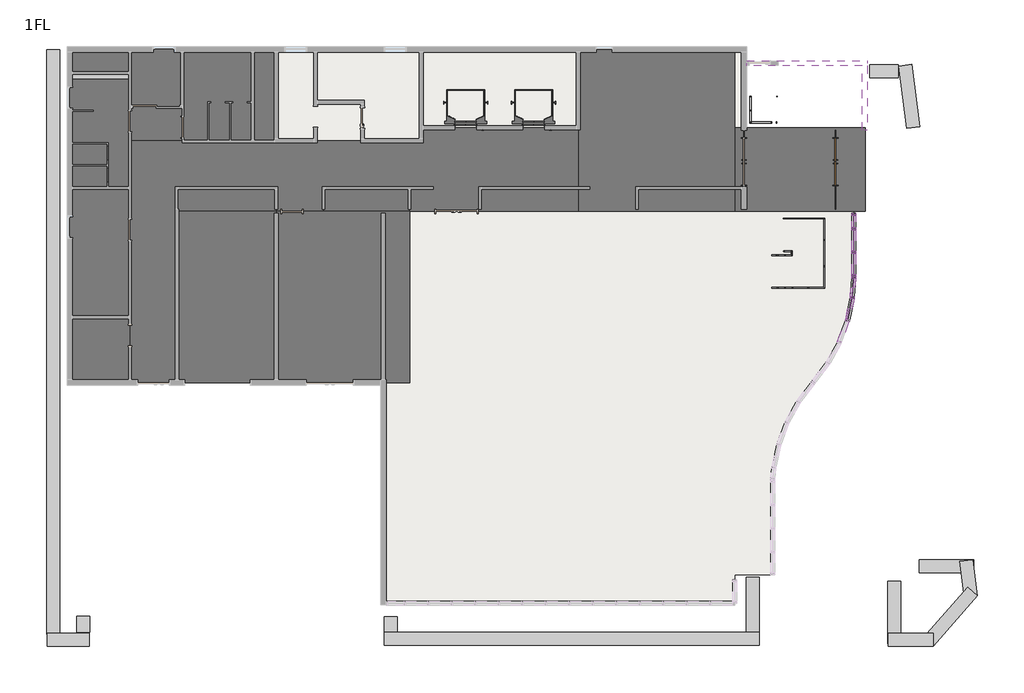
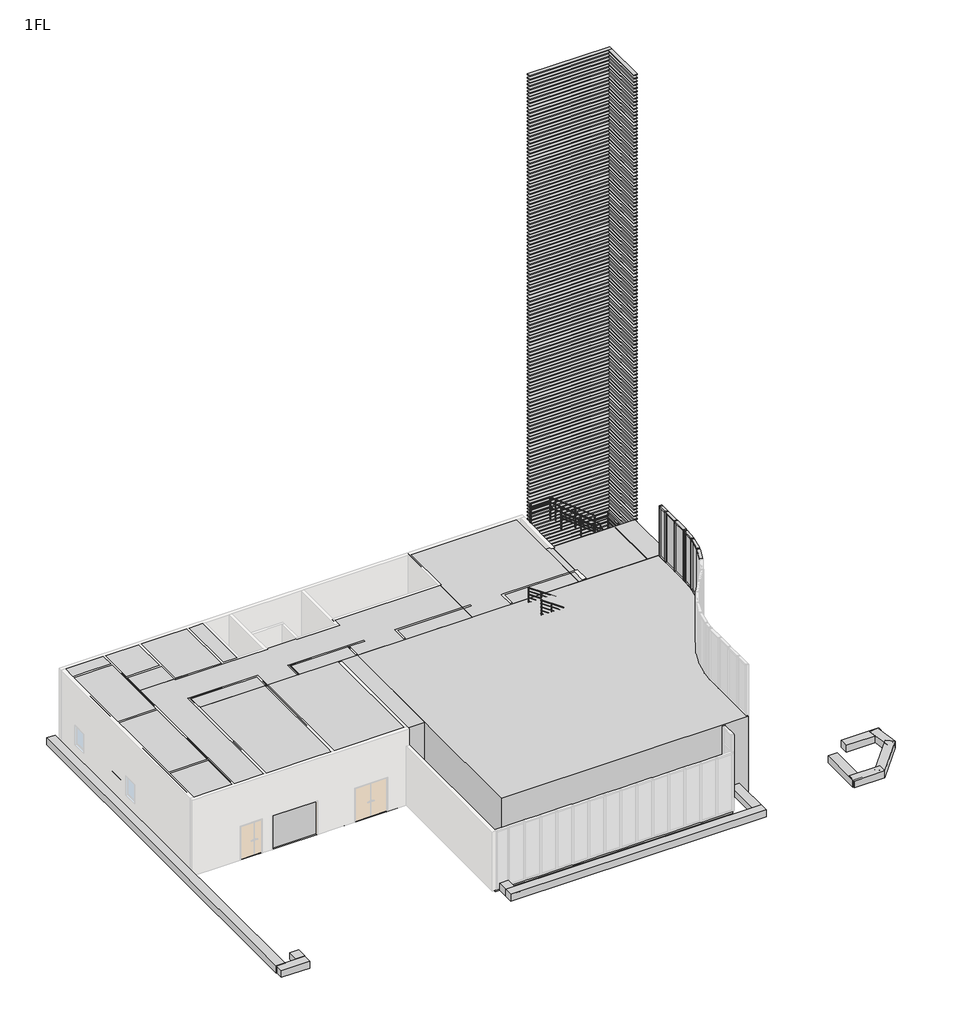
# One storey, part 4 of 4: 42 members, 20 proxies, 16 plates, 13 geographic elements, 4 flow terminals, 4 railings, 1 door, 1 slab.
"""IFC4 building model written with IfcOpenShell, lengths in millimetres."""

from ifc_helpers import new_model, si_unit, point, frame, frame_2d, origin, place, context, project, spatial, polyline, circle_curve, trimmed, segment, composite_curve, outline, extrude, transform, mapped, element, save
from components import specialty_equipment_d755c605, generic_models_8edc52f3, generic_models_84017759, d150_h1200_d4f8d7fc, w550_h2000_5054dc5e, w1800h2000_ad426c29, flow_terminal_205c4ddb, flow_terminal_b8fa7ae2, geographic_element_e046077a, geographic_element_ca9d48e7, geographic_element_d164ea4d, geographic_element_0d73bef9, geographic_element_c6e1ca96, geographic_element_46d341d1, geographic_element_428e2698, geographic_element_438879f5, geographic_element_253e0ccf, geographic_element_3813c259, geographic_element_54a3db66, geographic_element_fa39f05c, member_70x150_cdd4dcf9, member_70x150_66cf63de, member_70x150_ad4265bc, member_70x150_1b280ac3, member_70x150_f8cbd96f, member_70x150_a7debf2b, member_70x150_dd29d753, member_70x150_4e68411c, member_70x150_de2330a6, member_70x150_9ac4fcb9, member_70x150_482b1498, member_70x150_57855d24, member_70x150_27cdc2a3, plate_28587fd3, plate_88a24ec0, plate_582e668a, plate_c8db20b3, plate_8ab51c12, plate_ab2b1a6a, plate_19a950bd, railing_1d44057c, railing_328e5c47, railing_1eb0047a, railing_baf35b28

model = new_model("IFC4")

# Units and contexts
model_context = context("Model", 3, world=origin())
ifc_project = project(units=[si_unit("LENGTHUNIT", "METRE", prefix="MILLI")], contexts=[model_context])

# Site, building, storey
site = spatial("IfcSite", under=ifc_project)
building = spatial("IfcBuilding", under=site)
storey = spatial("IfcBuildingStorey", under=building, Name="1FL", Elevation=100.0)

# Proxies
placement = place(None, origin())
element("IfcBuildingElementProxy", 1, Name="i_店舗1 : i_店舗1", ObjectType="i_店舗1 : i_店舗1", at=placement, inside=storey, context=model_context, shape_type="SweptSolid", body=[
    extrude(outline(composite_curve([segment(polyline([(1154.0215975, 10449.6868987), (1154.0215975, 7949.6868987)]), True, "CONTINUOUS"), segment(trimmed(circle_curve(frame_2d((-4969.3732678, 7971.6034521)), 6123.4340865), [point((1154.0215975, 7949.6868987))], [point((-395.9784025, 3899.6868987))], False, "CARTESIAN"), True, "CONTINUOUS"), segment(trimmed(circle_curve(frame_2d((4214.6177511, -205.3517764)), 6173.2438325), [point((-395.9784025, 3899.6868987))], [point((-1945.9784025, 189.6095485))], True, "CARTESIAN"), True, "CONTINUOUS"), segment(polyline([(-1945.9784025, 189.6095485), (-1945.9784025, -3550.3131013), (-15845.9784025, -3550.3131013), (-15845.9784025, 10449.6868987), (1154.0215975, 10449.6868987)]), True, "CONTINUOUS")], self_intersect=False)), frame((0.0, 0.0, 100.0), z_axis=(0.0, 0.0, 1.0), x_axis=(1.0, 0.0, 0.0)), (0.0, 0.0, 1.0), 4500.0),
])
element("IfcBuildingElementProxy", 2, Name="i_共用 : i_共用", ObjectType="i_共用 : i_共用", at=placement, inside=storey, context=model_context, shape_type="SweptSolid", body=[
    extrude(outline(polyline([(-3395.9784025, 16649.6868987), (-3395.9784025, 10449.6868987), (-9395.9784025, 10449.6868987), (-9395.9784025, 16649.6868987), (-3395.9784025, 16649.6868987)])), frame((0.0, 0.0, 100.0), z_axis=(0.0, 0.0, 1.0), x_axis=(1.0, 0.0, 0.0)), (0.0, 0.0, 1.0), 4500.0),
])
element("IfcBuildingElementProxy", 3, Name="i_共用1 : i_共用", ObjectType="i_共用1 : i_共用", at=placement, inside=storey, context=model_context, shape_type="SweptSolid", body=[
    extrude(outline(polyline([(1604.0215975, 13649.6868987), (1604.0215975, 10449.6868987), (-3395.9784025, 10449.6868987), (-3395.9784025, 13649.6868987), (1604.0215975, 13649.6868987)])), frame((0.0, 0.0, 100.0), z_axis=(0.0, 0.0, 1.0), x_axis=(1.0, 0.0, 0.0)), (0.0, 0.0, 1.0), 4500.0),
])
element("IfcBuildingElementProxy", 4, Name="i_共用2 : i_共用", ObjectType="i_共用2 : i_共用", at=placement, inside=storey, context=model_context, shape_type="SweptSolid", body=[
    extrude(outline(polyline([(-15845.9784025, 10449.6868987), (-15845.9784025, 3899.6868987), (-20945.9784025, 3899.6868987), (-20945.9784025, 10449.6868987), (-15845.9784025, 10449.6868987)])), frame((0.0, 0.0, 100.0), z_axis=(0.0, 0.0, 1.0), x_axis=(1.0, 0.0, 0.0)), (0.0, 0.0, 1.0), 4500.0),
])
element("IfcBuildingElementProxy", 5, Name="i_共用3 : i_共用", ObjectType="i_共用3 : i_共用", at=placement, inside=storey, context=model_context, shape_type="SweptSolid", body=[
    extrude(outline(polyline([(-20945.9784025, 10449.6868987), (-20945.9784025, 3899.6868987), (-24745.9784025, 3899.6868987), (-24745.9784025, 10449.6868987), (-20945.9784025, 10449.6868987)])), frame((0.0, 0.0, 100.0), z_axis=(0.0, 0.0, 1.0), x_axis=(1.0, 0.0, 0.0)), (0.0, 0.0, 1.0), 4500.0),
])
element("IfcBuildingElementProxy", 6, Name="i_共用5 : i_共用", ObjectType="i_共用5 : i_共用", at=placement, inside=storey, context=model_context, shape_type="SweptSolid", body=[
    extrude(outline(polyline([(-26545.9784025, 6399.6868987), (-26545.9784025, 3899.6868987), (-28845.9784025, 3899.6868987), (-28845.9784025, 6399.6868987), (-26545.9784025, 6399.6868987)])), frame((0.0, 0.0, 100.0), z_axis=(0.0, 0.0, 1.0), x_axis=(1.0, 0.0, 0.0)), (0.0, 0.0, 1.0), 4500.0),
])
element("IfcBuildingElementProxy", 7, Name="i_共用6 : i_共用", ObjectType="i_共用6 : i_共用", at=placement, inside=storey, context=model_context, shape_type="SweptSolid", body=[
    extrude(outline(polyline([(-26545.9784025, 11349.6868987), (-26545.9784025, 6399.6868987), (-28845.9784025, 6399.6868987), (-28845.9784025, 11349.6868987), (-26545.9784025, 11349.6868987)])), frame((0.0, 0.0, 100.0), z_axis=(0.0, 0.0, 1.0), x_axis=(1.0, 0.0, 0.0)), (0.0, 0.0, 1.0), 4500.0),
])
element("IfcBuildingElementProxy", 8, Name="i_共用4 : i_共用", ObjectType="i_共用4 : i_共用", at=placement, inside=storey, context=model_context, shape_type="SweptSolid", body=[
    extrude(outline(polyline([(-20945.9784025, 11349.6868987), (-20945.9784025, 10449.6868987), (-24745.9784025, 10449.6868987), (-24745.9784025, 11349.6868987), (-20945.9784025, 11349.6868987)])), frame((0.0, 0.0, 100.0), z_axis=(0.0, 0.0, 1.0), x_axis=(1.0, 0.0, 0.0)), (0.0, 0.0, 1.0), 4500.0),
])
element("IfcBuildingElementProxy", 9, Name="i_共用7 : i_共用", ObjectType="i_共用7 : i_共用", at=placement, inside=storey, context=model_context, shape_type="SweptSolid", body=[
    extrude(outline(polyline([(-15845.9784025, 11349.6868987), (-15845.9784025, 10449.6868987), (-19145.9784025, 10449.6868987), (-19145.9784025, 11349.6868987), (-15845.9784025, 11349.6868987)])), frame((0.0, 0.0, 100.0), z_axis=(0.0, 0.0, 1.0), x_axis=(1.0, 0.0, 0.0)), (0.0, 0.0, 1.0), 4500.0),
])
element("IfcBuildingElementProxy", 10, Name="i_便所2 : i_便所2", ObjectType="i_便所2 : i_便所2", at=placement, inside=storey, context=model_context, shape_type="SweptSolid", body=[
    extrude(outline(polyline([(-20945.9784025, 13149.6868987), (-26545.9784025, 13149.6868987), (-26545.9784025, 16649.6868987), (-20945.9784025, 16649.6868987), (-20945.9784025, 13149.6868987)])), frame((0.0, 0.0, 100.0), z_axis=(0.0, 0.0, 1.0), x_axis=(1.0, 0.0, 0.0)), (0.0, 0.0, 1.0), 4500.0),
])
element("IfcBuildingElementProxy", 11, Name="i_共用8 : i_共用8", ObjectType="i_共用8 : i_共用8", at=placement, inside=storey, context=model_context, shape_type="SweptSolid", body=[
    extrude(outline(polyline([(-26545.9784025, 3899.6868987), (-26545.9784025, 13149.6868987), (-15395.9784025, 13149.6868987), (-15395.9784025, 13649.6868987), (-9395.9784025, 13649.6868987), (-9395.9784025, 10449.6868987), (-15845.9784025, 10449.6868987), (-15845.9784025, 11349.6868987), (-19145.9784025, 11349.6868987), (-19145.9784025, 10449.6868987), (-20945.9784025, 10449.6868987), (-20945.9784025, 11349.6868987), (-24745.9784025, 11349.6868987), (-24745.9784025, 3899.6868987), (-26545.9784025, 3899.6868987)])), frame((0.0, 0.0, 100.0), z_axis=(0.0, 0.0, 1.0), x_axis=(1.0, 0.0, 0.0)), (0.0, 0.0, 1.0), 4500.0),
])
element("IfcBuildingElementProxy", 12, Name="i_便所3 : i_便所2", ObjectType="i_便所3 : i_便所2", at=placement, inside=storey, context=model_context, shape_type="SweptSolid", body=[
    extrude(outline(polyline([(-26545.9784025, 11349.6868987), (-28845.9784025, 11349.6868987), (-28845.9784025, 16649.6868987), (-26545.9784025, 16649.6868987), (-26545.9784025, 11349.6868987)])), frame((0.0, 0.0, 100.0), z_axis=(0.0, 0.0, 1.0), x_axis=(1.0, 0.0, 0.0)), (0.0, 0.0, 1.0), 4500.0),
])
specialty_equipment_shape = specialty_equipment_d755c605(model_context)
element("IfcBuildingElementProxy", 13, Name="エレベーター : 9人乗", ObjectType="エレベーター : 9人乗", at=placement, inside=storey, context=model_context, shape_type="MappedRepresentation", body=[
    mapped(specialty_equipment_shape, transform((-11220.9784025, 13649.6868987, 100.0), x_axis=(1.0, 0.0, 0.0), y_axis=(0.0, 1.0, 0.0), z_axis=(0.0, 0.0, 1.0))),
])
element("IfcBuildingElementProxy", 14, Name="エレベーター : 9人乗", ObjectType="エレベーター : 9人乗", at=placement, inside=storey, context=model_context, shape_type="MappedRepresentation", body=[
    mapped(specialty_equipment_shape, transform((-13820.9784025, 13649.6868987, 100.0), x_axis=(1.0, 0.0, 0.0), y_axis=(0.0, 1.0, 0.0), z_axis=(0.0, 0.0, 1.0))),
])
generic_models_shape = generic_models_8edc52f3(model_context)
generic_models_2_shape = generic_models_84017759(model_context)
element("IfcBuildingElementProxy", 15, Name="水平ルーバー（Ｌ型） : ｈ50ｄ200＠200", ObjectType="水平ルーバー（Ｌ型） : ｈ50ｄ200＠200", at=placement, inside=storey, context=model_context, shape_type="MappedRepresentation", body=[
    mapped(generic_models_shape, transform((1679.0215975, 15924.6868987, 2100.0), x_axis=(0.0, -1.0, 0.0), y_axis=(1.0, 0.0, 0.0), z_axis=(0.0, 0.0, 1.0))),
    mapped(generic_models_2_shape, transform((1679.0215975, 15924.6868987, 2100.0), x_axis=(0.0, -1.0, 0.0), y_axis=(1.0, 0.0, 0.0), z_axis=(0.0, 0.0, 1.0))),
])
d150_h1200_shape = d150_h1200_d4f8d7fc(model_context)
element("IfcBuildingElementProxy", 16, Name="r ライニング : D150 H1200", ObjectType="r ライニング : D150 H1200", at=placement, inside=storey, context=model_context, shape_type="MappedRepresentation", body=[
    mapped(d150_h1200_shape, transform((-28747.60536, 15678.9761644, 100.0), x_axis=(1.0, 0.0, 0.0), y_axis=(0.0, 1.0, 0.0), z_axis=(0.0, 0.0, 1.0))),
])
w550_h2000_shape = w550_h2000_5054dc5e(model_context)
element("IfcBuildingElementProxy", 17, Name="r トイレブース扉 : W550 H2000", ObjectType="r トイレブース扉 : W550 H2000", at=placement, inside=storey, context=model_context, shape_type="MappedRepresentation", body=[
    mapped(w550_h2000_shape, transform((-22215.9784025, 14624.6868987, 100.0), x_axis=(-1.0, 0.0, 0.0), y_axis=(0.0, -1.0, 0.0), z_axis=(0.0, 0.0, 1.0))),
])
element("IfcBuildingElementProxy", 18, Name="r トイレブース扉 : W550 H2000", ObjectType="r トイレブース扉 : W550 H2000", at=placement, inside=storey, context=model_context, shape_type="MappedRepresentation", body=[
    mapped(w550_h2000_shape, transform((-23055.9784025, 14624.6868987, 100.0), x_axis=(-1.0, 0.0, 0.0), y_axis=(0.0, -1.0, 0.0), z_axis=(0.0, 0.0, 1.0))),
])
element("IfcBuildingElementProxy", 19, Name="r トイレブース扉 : W550 H2000", ObjectType="r トイレブース扉 : W550 H2000", at=placement, inside=storey, context=model_context, shape_type="MappedRepresentation", body=[
    mapped(w550_h2000_shape, transform((-27395.9784025, 11719.6868987, 100.0), x_axis=(0.0, 1.0, 0.0), y_axis=(-1.0, 0.0, 0.0), z_axis=(0.0, 0.0, 1.0))),
])
element("IfcBuildingElementProxy", 20, Name="r トイレブース扉 : W550 H2000", ObjectType="r トイレブース扉 : W550 H2000", at=placement, inside=storey, context=model_context, shape_type="MappedRepresentation", body=[
    mapped(w550_h2000_shape, transform((-27395.9784025, 12559.6868987, 100.0), x_axis=(0.0, 1.0, 0.0), y_axis=(-1.0, 0.0, 0.0), z_axis=(0.0, 0.0, 1.0))),
])

# Door
w1800h2000_shape = w1800h2000_ad426c29(model_context)
element("IfcDoor", 21, ObjectType="自由扉 : w1800h2000", at=placement, inside=storey, context=model_context, shape_type="MappedRepresentation", body=[
    mapped(w1800h2000_shape, transform((454.0215975, 12349.6868987, 100.0), x_axis=(0.0, -1.0, 0.0), y_axis=(1.0, 0.0, 0.0), z_axis=(0.0, 0.0, 1.0))),
])

# Flow terminals
flow_terminal_shape = flow_terminal_205c4ddb(model_context)
element("IfcFlowTerminal", 22, ObjectType="洋式便器 - ライニング付 - 2D : タイプ 1", at=placement, inside=storey, context=model_context, shape_type="MappedRepresentation", body=[
    mapped(flow_terminal_shape, transform((-22420.9784025, 13124.6868987, 100.0), x_axis=(1.0, 0.0, 0.0), y_axis=(0.0, 1.0, 0.0), z_axis=(0.0, 0.0, 1.0))),
])
element("IfcFlowTerminal", 23, ObjectType="洋式便器 - ライニング付 - 2D : タイプ 1", at=placement, inside=storey, context=model_context, shape_type="MappedRepresentation", body=[
    mapped(flow_terminal_shape, transform((-23260.9784025, 13124.6868987, 100.0), x_axis=(1.0, 0.0, 0.0), y_axis=(0.0, 1.0, 0.0), z_axis=(0.0, 0.0, 1.0))),
])
flow_terminal_2_shape = flow_terminal_b8fa7ae2(model_context)
element("IfcFlowTerminal", 24, ObjectType="洋式便器 - ライニング付 - 2D : タイプ 1", at=placement, inside=storey, context=model_context, shape_type="MappedRepresentation", body=[
    mapped(flow_terminal_2_shape, transform((-28845.9784025, 11924.6868987, 100.0), x_axis=(0.0, -1.0, 0.0), y_axis=(1.0, 0.0, 0.0), z_axis=(0.0, 0.0, 1.0))),
])
element("IfcFlowTerminal", 25, ObjectType="洋式便器 - ライニング付 - 2D : タイプ 1", at=placement, inside=storey, context=model_context, shape_type="MappedRepresentation", body=[
    mapped(flow_terminal_2_shape, transform((-28845.9784025, 12764.6868987, 100.0), x_axis=(0.0, -1.0, 0.0), y_axis=(1.0, 0.0, 0.0), z_axis=(0.0, 0.0, 1.0))),
])

# Geographic elements
geographic_element_shape = geographic_element_e046077a(model_context)
element("IfcGeographicElement", 26, ObjectType="r 低木密植 : 低木密植", at=placement, inside=storey, context=model_context, shape_type="MappedRepresentation", body=[
    mapped(geographic_element_shape, transform((5757.3946627, -2875.9293243, 400.0), x_axis=(-1.0, 0.0, 0.0), y_axis=(0.0, -1.0, 0.0), z_axis=(0.0, 0.0, 1.0))),
])
geographic_element_2_shape = geographic_element_ca9d48e7(model_context)
element("IfcGeographicElement", 27, ObjectType="r 低木密植 : 低木密植", at=placement, inside=storey, context=model_context, shape_type="MappedRepresentation", body=[
    mapped(geographic_element_2_shape, transform((2450.151827, -3700.9929435, 400.0), x_axis=(0.0, -1.0, 0.0), y_axis=(1.0, 0.0, 0.0), z_axis=(0.0, 0.0, 1.0))),
])
element("IfcGeographicElement", 28, ObjectType="r 低木密植 : 低木密植", at=placement, inside=storey, context=model_context, shape_type="MappedRepresentation", body=[
    mapped(geographic_element_2_shape, transform((3681.8163048, 13693.6193878, 400.0), x_axis=(-0.12417914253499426, 0.992259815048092, 0.0), y_axis=(-0.992259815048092, -0.12417914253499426, 0.0), z_axis=(0.0, 0.0, 1.0))),
])
geographic_element_3_shape = geographic_element_d164ea4d(model_context)
element("IfcGeographicElement", 29, ObjectType="r 低木密植 : 低木密植", at=placement, inside=storey, context=model_context, shape_type="MappedRepresentation", body=[
    mapped(geographic_element_3_shape, transform((2472.5894043, -6191.5640242, 400.0), x_axis=(1.0, 0.0, 0.0), y_axis=(0.0, 1.0, 0.0), z_axis=(0.0, 0.0, 1.0))),
])
geographic_element_4_shape = geographic_element_0d73bef9(model_context)
element("IfcGeographicElement", 30, ObjectType="r 低木密植 : 低木密植", at=placement, inside=storey, context=model_context, shape_type="MappedRepresentation", body=[
    mapped(geographic_element_4_shape, transform((4197.5146369, -6191.5640242, 400.0), x_axis=(0.6591967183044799, 0.7519705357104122, 0.0), y_axis=(-0.7519705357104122, 0.6591967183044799, 0.0), z_axis=(0.0, 0.0, 1.0))),
])
geographic_element_5_shape = geographic_element_c6e1ca96(model_context)
element("IfcGeographicElement", 31, ObjectType="r 低木密植 : 低木密植", at=placement, inside=storey, context=model_context, shape_type="MappedRepresentation", body=[
    mapped(geographic_element_5_shape, transform((5891.756747, -4258.8782087, 400.0), x_axis=(-0.12417914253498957, 0.9922598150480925, 0.0), y_axis=(-0.9922598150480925, -0.12417914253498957, 0.0), z_axis=(0.0, 0.0, 1.0))),
])
geographic_element_6_shape = geographic_element_46d341d1(model_context)
element("IfcGeographicElement", 32, ObjectType="r 低木密植 : 低木密植", at=placement, inside=storey, context=model_context, shape_type="MappedRepresentation", body=[
    mapped(geographic_element_6_shape, transform((-16813.3792047, -5074.5969656, 400.0), x_axis=(0.0, -1.0, 0.0), y_axis=(1.0, 0.0, 0.0), z_axis=(0.0, 0.0, 1.0))),
])
geographic_element_7_shape = geographic_element_428e2698(model_context)
element("IfcGeographicElement", 33, ObjectType="r 低木密植 : 低木密植", at=placement, inside=storey, context=model_context, shape_type="MappedRepresentation", body=[
    mapped(geographic_element_7_shape, transform((-16813.3792047, -6162.8194648, 400.0), x_axis=(1.0, 0.0, 0.0), y_axis=(0.0, 1.0, 0.0), z_axis=(0.0, 0.0, 1.0))),
])
geographic_element_8_shape = geographic_element_438879f5(model_context)
element("IfcGeographicElement", 34, ObjectType="r 低木密植 : 低木密植", at=placement, inside=storey, context=model_context, shape_type="MappedRepresentation", body=[
    mapped(geographic_element_8_shape, transform((-2450.9416274, -6162.8194648, 400.0), x_axis=(0.0, 1.0, 0.0), y_axis=(-1.0, 0.0, 0.0), z_axis=(0.0, 0.0, 1.0))),
])
geographic_element_9_shape = geographic_element_253e0ccf(model_context)
element("IfcGeographicElement", 35, ObjectType="r 低木密植 : 低木密植", at=placement, inside=storey, context=model_context, shape_type="MappedRepresentation", body=[
    mapped(geographic_element_9_shape, transform((-29710.3563963, -6188.8969379, 400.0), x_axis=(1.0, 0.0, 0.0), y_axis=(0.0, 1.0, 0.0), z_axis=(0.0, 0.0, 1.0))),
])
geographic_element_10_shape = geographic_element_3813c259(model_context)
element("IfcGeographicElement", 36, ObjectType="r 低木密植 : 低木密植", at=placement, inside=storey, context=model_context, shape_type="MappedRepresentation", body=[
    mapped(geographic_element_10_shape, transform((-29739.1966605, 16629.6904283, 400.0), x_axis=(0.0, -1.0, 0.0), y_axis=(1.0, 0.0, 0.0), z_axis=(0.0, 0.0, 1.0))),
])
geographic_element_11_shape = geographic_element_54a3db66(model_context)
element("IfcGeographicElement", 37, ObjectType="r 低木密植 : 低木密植", at=placement, inside=storey, context=model_context, shape_type="MappedRepresentation", body=[
    mapped(geographic_element_11_shape, transform((-28086.7189081, -5653.6644378, 400.0), x_axis=(0.0, 1.0, 0.0), y_axis=(-1.0, 0.0, 0.0), z_axis=(0.0, 0.0, 1.0))),
])
geographic_element_12_shape = geographic_element_fa39f05c(model_context)
element("IfcGeographicElement", 38, ObjectType="r 低木密植 : 低木密植", at=placement, inside=storey, context=model_context, shape_type="MappedRepresentation", body=[
    mapped(geographic_element_12_shape, transform((2865.8898928, 16058.7731642, 400.0), x_axis=(-1.0, 0.0, 0.0), y_axis=(0.0, -1.0, 0.0), z_axis=(0.0, 0.0, 1.0))),
])

# Members
member_70x150_shape = member_70x150_cdd4dcf9(model_context)
element("IfcMember", 39, ObjectType="長方形のマリオン : 70x150", at=placement, inside=storey, context=model_context, shape_type="MappedRepresentation", body=[
    mapped(member_70x150_shape, transform((1154.0215975, 8884.6868987, 100.0), x_axis=(0.0, 1.0, 0.0), y_axis=(1.0, 0.0, 0.0), z_axis=(0.0, 0.0, -1.0))),
])
element("IfcMember", 40, ObjectType="長方形のマリオン : 70x150", at=placement, inside=storey, context=model_context, shape_type="MappedRepresentation", body=[
    mapped(member_70x150_shape, transform((1154.0215975, 9784.6868987, 100.0), x_axis=(0.0, 1.0, 0.0), y_axis=(1.0, 0.0, 0.0), z_axis=(0.0, 0.0, -1.0))),
])
element("IfcMember", 41, ObjectType="長方形のマリオン : 70x150", at=placement, inside=storey, context=model_context, shape_type="MappedRepresentation", body=[
    mapped(member_70x150_shape, transform((914.9114935, 6277.0126875, 100.0), x_axis=(0.27673863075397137, 0.960945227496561, 0.0), y_axis=(0.960945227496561, -0.27673863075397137, 0.0), z_axis=(0.0, 0.0, -1.0))),
])
element("IfcMember", 42, ObjectType="長方形のマリオン : 70x150", at=placement, inside=storey, context=model_context, shape_type="MappedRepresentation", body=[
    mapped(member_70x150_shape, transform((1099.7465115, 7157.8282278, 100.0), x_axis=(0.1328952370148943, 0.9911300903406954, 0.0), y_axis=(0.9911300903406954, -0.1328952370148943, 0.0), z_axis=(0.0, 0.0, -1.0))),
])
member_70x150_2_shape = member_70x150_66cf63de(model_context)
element("IfcMember", 43, ObjectType="長方形のマリオン : 70x150", at=placement, inside=storey, context=model_context, shape_type="MappedRepresentation", body=[
    mapped(member_70x150_2_shape, transform((1154.0215975, 8919.6868987, 100.0), x_axis=(0.0, 0.0, -1.0), y_axis=(1.0, 0.0, 0.0), z_axis=(0.0, -1.0, 0.0))),
])
element("IfcMember", 44, ObjectType="長方形のマリオン : 70x150", at=placement, inside=storey, context=model_context, shape_type="MappedRepresentation", body=[
    mapped(member_70x150_2_shape, transform((1154.0215975, 8019.6868987, 100.0), x_axis=(0.0, 0.0, -1.0), y_axis=(1.0, 0.0, 0.0), z_axis=(0.0, -1.0, 0.0))),
])
element("IfcMember", 45, ObjectType="長方形のマリオン : 70x150", at=placement, inside=storey, context=model_context, shape_type="MappedRepresentation", body=[
    mapped(member_70x150_2_shape, transform((1154.0215975, 8849.6868987, 7600.0), x_axis=(0.0, 0.0, 1.0), y_axis=(1.0, 0.0, 0.0), z_axis=(0.0, 1.0, 0.0))),
])
element("IfcMember", 46, ObjectType="長方形のマリオン : 70x150", at=placement, inside=storey, context=model_context, shape_type="MappedRepresentation", body=[
    mapped(member_70x150_2_shape, transform((1154.0215975, 9749.6868987, 7600.0), x_axis=(0.0, 0.0, 1.0), y_axis=(1.0, 0.0, 0.0), z_axis=(0.0, 1.0, 0.0))),
])
member_70x150_3_shape = member_70x150_ad4265bc(model_context)
element("IfcMember", 47, ObjectType="長方形のマリオン : 70x150", at=placement, inside=storey, context=model_context, shape_type="MappedRepresentation", body=[
    mapped(member_70x150_3_shape, transform((1154.0215975, 9749.6868987, 4600.0), x_axis=(0.0, 0.0, 1.0), y_axis=(1.0, 0.0, 0.0), z_axis=(0.0, 1.0, 0.0))),
])
element("IfcMember", 48, ObjectType="長方形のマリオン : 70x150", at=placement, inside=storey, context=model_context, shape_type="MappedRepresentation", body=[
    mapped(member_70x150_3_shape, transform((1154.0215975, 9749.6868987, 3100.0), x_axis=(0.0, 0.0, 1.0), y_axis=(1.0, 0.0, 0.0), z_axis=(0.0, 1.0, 0.0))),
])
element("IfcMember", 49, ObjectType="長方形のマリオン : 70x150", at=placement, inside=storey, context=model_context, shape_type="MappedRepresentation", body=[
    mapped(member_70x150_3_shape, transform((1154.0215975, 8849.6868987, 3100.0), x_axis=(0.0, 0.0, 1.0), y_axis=(1.0, 0.0, 0.0), z_axis=(0.0, 1.0, 0.0))),
])
element("IfcMember", 50, ObjectType="長方形のマリオン : 70x150", at=placement, inside=storey, context=model_context, shape_type="MappedRepresentation", body=[
    mapped(member_70x150_3_shape, transform((1154.0215975, 8849.6868987, 4600.0), x_axis=(0.0, 0.0, 1.0), y_axis=(1.0, 0.0, 0.0), z_axis=(0.0, 1.0, 0.0))),
])
member_70x150_4_shape = member_70x150_1b280ac3(model_context)
element("IfcMember", 51, ObjectType="長方形のマリオン : 70x150", at=placement, inside=storey, context=model_context, shape_type="MappedRepresentation", body=[
    mapped(member_70x150_4_shape, transform((1154.0215975, 10374.6868987, 100.0), x_axis=(0.0, 1.0, 0.0), y_axis=(1.0, 0.0, 0.0), z_axis=(0.0, 0.0, -1.0))),
])
element("IfcMember", 52, ObjectType="長方形のマリオン : 70x150", at=placement, inside=storey, context=model_context, shape_type="MappedRepresentation", body=[
    mapped(member_70x150_4_shape, transform((1154.0215975, 7949.6868987, 100.0), x_axis=(0.06838094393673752, 0.997659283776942, 0.0), y_axis=(0.997659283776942, -0.06838094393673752, 0.0), z_axis=(0.0, 0.0, -1.0))),
])
element("IfcMember", 53, ObjectType="長方形のマリオン : 70x150", at=placement, inside=storey, context=model_context, shape_type="MappedRepresentation", body=[
    mapped(member_70x150_4_shape, transform((1154.0215975, 7949.6868987, 3100.0), x_axis=(0.0, -1.0, 0.0), y_axis=(1.0, 0.0, 0.0), z_axis=(0.0, 0.0, 1.0))),
])
member_70x150_5_shape = member_70x150_f8cbd96f(model_context)
element("IfcMember", 54, ObjectType="長方形のマリオン : 70x150", at=placement, inside=storey, context=model_context, shape_type="MappedRepresentation", body=[
    mapped(member_70x150_5_shape, transform((1154.0215975, 8884.6868987, 3100.0), x_axis=(0.0, 1.0, 0.0), y_axis=(1.0, 0.0, 0.0), z_axis=(0.0, 0.0, -1.0))),
])
element("IfcMember", 55, ObjectType="長方形のマリオン : 70x150", at=placement, inside=storey, context=model_context, shape_type="MappedRepresentation", body=[
    mapped(member_70x150_5_shape, transform((1154.0215975, 9784.6868987, 3100.0), x_axis=(0.0, 1.0, 0.0), y_axis=(1.0, 0.0, 0.0), z_axis=(0.0, 0.0, -1.0))),
])
element("IfcMember", 56, ObjectType="長方形のマリオン : 70x150", at=placement, inside=storey, context=model_context, shape_type="MappedRepresentation", body=[
    mapped(member_70x150_5_shape, transform((1099.7465115, 7157.8282278, 3100.0), x_axis=(0.1328952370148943, 0.9911300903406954, 0.0), y_axis=(0.9911300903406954, -0.1328952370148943, 0.0), z_axis=(0.0, 0.0, -1.0))),
])
element("IfcMember", 57, ObjectType="長方形のマリオン : 70x150", at=placement, inside=storey, context=model_context, shape_type="MappedRepresentation", body=[
    mapped(member_70x150_shape, transform((1154.0215975, 8884.6868987, 4600.0), x_axis=(0.0, 1.0, 0.0), y_axis=(1.0, 0.0, 0.0), z_axis=(0.0, 0.0, -1.0))),
])
element("IfcMember", 58, ObjectType="長方形のマリオン : 70x150", at=placement, inside=storey, context=model_context, shape_type="MappedRepresentation", body=[
    mapped(member_70x150_shape, transform((1154.0215975, 9784.6868987, 4600.0), x_axis=(0.0, 1.0, 0.0), y_axis=(1.0, 0.0, 0.0), z_axis=(0.0, 0.0, -1.0))),
])
element("IfcMember", 59, ObjectType="長方形のマリオン : 70x150", at=placement, inside=storey, context=model_context, shape_type="MappedRepresentation", body=[
    mapped(member_70x150_shape, transform((1099.7465115, 7157.8282278, 4600.0), x_axis=(0.1328952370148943, 0.9911300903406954, 0.0), y_axis=(0.9911300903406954, -0.1328952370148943, 0.0), z_axis=(0.0, 0.0, -1.0))),
])
member_70x150_6_shape = member_70x150_a7debf2b(model_context)
element("IfcMember", 60, ObjectType="長方形のマリオン : 70x150", at=placement, inside=storey, context=model_context, shape_type="MappedRepresentation", body=[
    mapped(member_70x150_6_shape, transform((1154.0215975, 9819.6868987, 100.0), x_axis=(0.0, 0.0, -1.0), y_axis=(1.0, 0.0, 0.0), z_axis=(0.0, -1.0, 0.0))),
])
member_70x150_7_shape = member_70x150_dd29d753(model_context)
element("IfcMember", 61, ObjectType="長方形のマリオン : 70x150", at=placement, inside=storey, context=model_context, shape_type="MappedRepresentation", body=[
    mapped(member_70x150_7_shape, transform((1154.0215975, 10304.6868987, 4600.0), x_axis=(0.0, 0.0, 1.0), y_axis=(1.0, 0.0, 0.0), z_axis=(0.0, 1.0, 0.0))),
])
element("IfcMember", 62, ObjectType="長方形のマリオン : 70x150", at=placement, inside=storey, context=model_context, shape_type="MappedRepresentation", body=[
    mapped(member_70x150_7_shape, transform((1154.0215975, 10304.6868987, 3100.0), x_axis=(0.0, 0.0, 1.0), y_axis=(1.0, 0.0, 0.0), z_axis=(0.0, 1.0, 0.0))),
])
element("IfcMember", 63, ObjectType="長方形のマリオン : 70x150", at=placement, inside=storey, context=model_context, shape_type="MappedRepresentation", body=[
    mapped(member_70x150_6_shape, transform((1154.0215975, 10304.6868987, 7600.0), x_axis=(0.0, 0.0, 1.0), y_axis=(1.0, 0.0, 0.0), z_axis=(0.0, 1.0, 0.0))),
])
member_70x150_8_shape = member_70x150_4e68411c(model_context)
element("IfcMember", 64, ObjectType="長方形のマリオン : 70x150", at=placement, inside=storey, context=model_context, shape_type="MappedRepresentation", body=[
    mapped(member_70x150_8_shape, transform((1154.0215975, 7949.6868987, 4600.0), x_axis=(0.0, -1.0, 0.0), y_axis=(1.0, 0.0, 0.0), z_axis=(0.0, 0.0, 1.0))),
])
element("IfcMember", 65, ObjectType="長方形のマリオン : 70x150", at=placement, inside=storey, context=model_context, shape_type="MappedRepresentation", body=[
    mapped(member_70x150_4_shape, transform((1154.0215975, 10374.6868987, 4600.0), x_axis=(0.0, 1.0, 0.0), y_axis=(1.0, 0.0, 0.0), z_axis=(0.0, 0.0, -1.0))),
])
element("IfcMember", 66, ObjectType="長方形のマリオン : 70x150", at=placement, inside=storey, context=model_context, shape_type="MappedRepresentation", body=[
    mapped(member_70x150_4_shape, transform((1154.0215975, 7949.6868987, 4600.0), x_axis=(0.06838094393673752, 0.997659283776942, 0.0), y_axis=(0.997659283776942, -0.06838094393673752, 0.0), z_axis=(0.0, 0.0, -1.0))),
])
element("IfcMember", 67, ObjectType="長方形のマリオン : 70x150", at=placement, inside=storey, context=model_context, shape_type="MappedRepresentation", body=[
    mapped(member_70x150_8_shape, transform((1154.0215975, 10374.6868987, 3100.0), x_axis=(0.0, 1.0, 0.0), y_axis=(1.0, 0.0, 0.0), z_axis=(0.0, 0.0, -1.0))),
])
element("IfcMember", 68, ObjectType="長方形のマリオン : 70x150", at=placement, inside=storey, context=model_context, shape_type="MappedRepresentation", body=[
    mapped(member_70x150_8_shape, transform((1154.0215975, 7949.6868987, 3100.0), x_axis=(0.06838094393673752, 0.997659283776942, 0.0), y_axis=(0.997659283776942, -0.06838094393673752, 0.0), z_axis=(0.0, 0.0, -1.0))),
])
element("IfcMember", 69, ObjectType="長方形のマリオン : 70x150", at=placement, inside=storey, context=model_context, shape_type="MappedRepresentation", body=[
    mapped(member_70x150_4_shape, transform((1154.0215975, 7949.6868987, 7600.0), x_axis=(0.0, -1.0, 0.0), y_axis=(1.0, 0.0, 0.0), z_axis=(0.0, 0.0, 1.0))),
])
member_70x150_9_shape = member_70x150_de2330a6(model_context)
element("IfcMember", 70, ObjectType="長方形のマリオン : 70x150", at=placement, inside=storey, context=model_context, shape_type="MappedRepresentation", body=[
    mapped(member_70x150_9_shape, transform((922.099522, 6311.2666252, 100.0), x_axis=(0.0, 0.0, -1.0), y_axis=(0.9786839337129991, -0.20537224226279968, 0.0), z_axis=(-0.20537224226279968, -0.9786839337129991, 0.0))),
])
element("IfcMember", 71, ObjectType="長方形のマリオン : 70x150", at=placement, inside=storey, context=model_context, shape_type="MappedRepresentation", body=[
    mapped(member_70x150_9_shape, transform((1092.5584831, 7123.5742901, 7600.0), x_axis=(0.0, 0.0, 1.0), y_axis=(0.9786839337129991, -0.20537224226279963, 0.0), z_axis=(0.2053722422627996, 0.978683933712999, 0.0))),
])
element("IfcMember", 72, ObjectType="長方形のマリオン : 70x150", at=placement, inside=storey, context=model_context, shape_type="MappedRepresentation", body=[
    mapped(member_70x150_9_shape, transform((902.7801972, 6244.182341, 7600.0), x_axis=(0.0, 0.0, 1.0), y_axis=(0.9380098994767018, -0.34660846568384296, 0.0), z_axis=(0.34660846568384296, 0.9380098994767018, 0.0))),
])
member_70x150_10_shape = member_70x150_9ac4fcb9(model_context)
element("IfcMember", 73, ObjectType="長方形のマリオン : 70x150", at=placement, inside=storey, context=model_context, shape_type="MappedRepresentation", body=[
    mapped(member_70x150_10_shape, transform((1102.1398446, 7192.7463028, 100.0), x_axis=(0.0, 0.0, -1.0), y_axis=(0.997659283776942, -0.06838094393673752, 0.0), z_axis=(-0.0683809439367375, -0.9976592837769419, 0.0))),
])
member_70x150_11_shape = member_70x150_482b1498(model_context)
element("IfcMember", 74, ObjectType="長方形のマリオン : 70x150", at=placement, inside=storey, context=model_context, shape_type="MappedRepresentation", body=[
    mapped(member_70x150_11_shape, transform((902.7801972, 6244.182341, 4600.0), x_axis=(0.0, 0.0, 1.0), y_axis=(0.9380098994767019, -0.346608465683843, 0.0), z_axis=(0.346608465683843, 0.9380098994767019, 0.0))),
])
element("IfcMember", 75, ObjectType="長方形のマリオン : 70x150", at=placement, inside=storey, context=model_context, shape_type="MappedRepresentation", body=[
    mapped(member_70x150_11_shape, transform((1092.5584831, 7123.5742901, 4600.0), x_axis=(0.0, 0.0, 1.0), y_axis=(0.9786839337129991, -0.20537224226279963, 0.0), z_axis=(0.2053722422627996, 0.978683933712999, 0.0))),
])
element("IfcMember", 76, ObjectType="長方形のマリオン : 70x150", at=placement, inside=storey, context=model_context, shape_type="MappedRepresentation", body=[
    mapped(member_70x150_11_shape, transform((1092.5584831, 7123.5742901, 3100.0), x_axis=(0.0, 0.0, 1.0), y_axis=(0.9786839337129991, -0.20537224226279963, 0.0), z_axis=(0.2053722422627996, 0.978683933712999, 0.0))),
])
element("IfcMember", 77, ObjectType="長方形のマリオン : 70x150", at=placement, inside=storey, context=model_context, shape_type="MappedRepresentation", body=[
    mapped(member_70x150_11_shape, transform((902.7801972, 6244.182341, 3100.0), x_axis=(0.0, 0.0, 1.0), y_axis=(0.9380098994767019, -0.346608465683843, 0.0), z_axis=(0.346608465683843, 0.9380098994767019, 0.0))),
])
member_70x150_12_shape = member_70x150_57855d24(model_context)
element("IfcMember", 78, ObjectType="長方形のマリオン : 70x150", at=placement, inside=storey, context=model_context, shape_type="MappedRepresentation", body=[
    mapped(member_70x150_12_shape, transform((1149.2349314, 7879.8507488, 4600.0), x_axis=(0.0, 0.0, 1.0), y_axis=(0.997659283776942, -0.06838094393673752, 0.0), z_axis=(0.0683809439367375, 0.9976592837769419, 0.0))),
])
element("IfcMember", 79, ObjectType="長方形のマリオン : 70x150", at=placement, inside=storey, context=model_context, shape_type="MappedRepresentation", body=[
    mapped(member_70x150_12_shape, transform((1149.2349314, 7879.8507488, 3100.0), x_axis=(0.0, 0.0, 1.0), y_axis=(0.997659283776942, -0.06838094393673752, 0.0), z_axis=(0.0683809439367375, 0.9976592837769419, 0.0))),
])
member_70x150_13_shape = member_70x150_27cdc2a3(model_context)
element("IfcMember", 80, ObjectType="長方形のマリオン : 70x150", at=placement, inside=storey, context=model_context, shape_type="MappedRepresentation", body=[
    mapped(member_70x150_13_shape, transform((1149.2349314, 7879.8507488, 7600.0), x_axis=(0.0, 0.0, 1.0), y_axis=(0.997659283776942, -0.0683809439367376, 0.0), z_axis=(0.06838094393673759, 0.9976592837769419, 0.0))),
])

# Plates
plate_shape = plate_28587fd3(model_context)
element("IfcPlate", 81, ObjectType="システム パネル : 標準", at=placement, inside=storey, context=model_context, shape_type="MappedRepresentation", body=[
    mapped(plate_shape, transform((1154.0215975, 8434.6868987, 170.0), x_axis=(0.0, 1.0, 0.0), y_axis=(-1.0, 0.0, 0.0), z_axis=(0.0, 0.0, 1.0))),
])
element("IfcPlate", 82, ObjectType="システム パネル : 標準", at=placement, inside=storey, context=model_context, shape_type="MappedRepresentation", body=[
    mapped(plate_shape, transform((1154.0215975, 9334.6868987, 170.0), x_axis=(0.0, 1.0, 0.0), y_axis=(-1.0, 0.0, 0.0), z_axis=(0.0, 0.0, 1.0))),
])
element("IfcPlate", 83, ObjectType="システム パネル : 標準", at=placement, inside=storey, context=model_context, shape_type="MappedRepresentation", body=[
    mapped(plate_shape, transform((1007.3290025, 6717.4204577, 170.0), x_axis=(0.2053722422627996, 0.9786839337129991, 0.0), y_axis=(-0.9786839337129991, 0.2053722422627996, 0.0), z_axis=(0.0, 0.0, 1.0))),
])
element("IfcPlate", 84, ObjectType="システム パネル : 標準", at=placement, inside=storey, context=model_context, shape_type="MappedRepresentation", body=[
    mapped(plate_shape, transform((1007.3290025, 6717.4204577, 4635.0), x_axis=(0.20537224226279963, 0.9786839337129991, 0.0), y_axis=(-0.9786839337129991, 0.20537224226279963, 0.0), z_axis=(0.0, 0.0, 1.0))),
])
element("IfcPlate", 85, ObjectType="システム パネル : 標準", at=placement, inside=storey, context=model_context, shape_type="MappedRepresentation", body=[
    mapped(plate_shape, transform((1154.0215975, 8434.6868987, 4635.0), x_axis=(0.0, 1.0, 0.0), y_axis=(-1.0, 0.0, 0.0), z_axis=(0.0, 0.0, 1.0))),
])
element("IfcPlate", 86, ObjectType="システム パネル : 標準", at=placement, inside=storey, context=model_context, shape_type="MappedRepresentation", body=[
    mapped(plate_shape, transform((1154.0215975, 9334.6868987, 4635.0), x_axis=(0.0, 1.0, 0.0), y_axis=(-1.0, 0.0, 0.0), z_axis=(0.0, 0.0, 1.0))),
])
plate_2_shape = plate_88a24ec0(model_context)
element("IfcPlate", 87, ObjectType="システム パネル : 標準", at=placement, inside=storey, context=model_context, shape_type="MappedRepresentation", body=[
    mapped(plate_2_shape, transform((1154.0215975, 10062.1868987, 170.0), x_axis=(0.0, 1.0, 0.0), y_axis=(-1.0, 0.0, 0.0), z_axis=(0.0, 0.0, 1.0))),
])
element("IfcPlate", 88, ObjectType="システム パネル : 標準", at=placement, inside=storey, context=model_context, shape_type="MappedRepresentation", body=[
    mapped(plate_2_shape, transform((1154.0215975, 10062.1868987, 4635.0), x_axis=(0.0, 1.0, 0.0), y_axis=(-1.0, 0.0, 0.0), z_axis=(0.0, 0.0, 1.0))),
])
plate_3_shape = plate_582e668a(model_context)
element("IfcPlate", 89, ObjectType="システム パネル : 標準", at=placement, inside=storey, context=model_context, shape_type="MappedRepresentation", body=[
    mapped(plate_3_shape, transform((1007.3290025, 6717.4204577, 3135.0), x_axis=(0.20537224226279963, 0.9786839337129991, 0.0), y_axis=(-0.9786839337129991, 0.20537224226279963, 0.0), z_axis=(0.0, 0.0, 1.0))),
])
element("IfcPlate", 90, ObjectType="システム パネル : 標準", at=placement, inside=storey, context=model_context, shape_type="MappedRepresentation", body=[
    mapped(plate_3_shape, transform((1154.0215975, 8434.6868987, 3135.0), x_axis=(0.0, 1.0, 0.0), y_axis=(-1.0, 0.0, 0.0), z_axis=(0.0, 0.0, 1.0))),
])
element("IfcPlate", 91, ObjectType="システム パネル : 標準", at=placement, inside=storey, context=model_context, shape_type="MappedRepresentation", body=[
    mapped(plate_3_shape, transform((1154.0215975, 9334.6868987, 3135.0), x_axis=(0.0, 1.0, 0.0), y_axis=(-1.0, 0.0, 0.0), z_axis=(0.0, 0.0, 1.0))),
])
plate_4_shape = plate_c8db20b3(model_context)
element("IfcPlate", 92, ObjectType="システム パネル : 標準", at=placement, inside=storey, context=model_context, shape_type="MappedRepresentation", body=[
    mapped(plate_4_shape, transform((1154.0215975, 10062.1868987, 3135.0), x_axis=(0.0, 1.0, 0.0), y_axis=(-1.0, 0.0, 0.0), z_axis=(0.0, 0.0, 1.0))),
])
plate_5_shape = plate_8ab51c12(model_context)
element("IfcPlate", 93, ObjectType="システム パネル : 標準", at=placement, inside=storey, context=model_context, shape_type="MappedRepresentation", body=[
    mapped(plate_5_shape, transform((1125.687388, 7536.2985258, 170.0), x_axis=(0.06838094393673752, 0.997659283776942, 0.0), y_axis=(-0.997659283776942, 0.06838094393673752, 0.0), z_axis=(0.0, 0.0, 1.0))),
])
element("IfcPlate", 94, ObjectType="システム パネル : 標準", at=placement, inside=storey, context=model_context, shape_type="MappedRepresentation", body=[
    mapped(plate_5_shape, transform((1125.687388, 7536.2985258, 4635.0), x_axis=(0.06838094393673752, 0.997659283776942, 0.0), y_axis=(-0.997659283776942, 0.06838094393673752, 0.0), z_axis=(0.0, 0.0, 1.0))),
])
plate_6_shape = plate_ab2b1a6a(model_context)
element("IfcPlate", 95, ObjectType="システム パネル : 標準", at=placement, inside=storey, context=model_context, shape_type="MappedRepresentation", body=[
    mapped(plate_6_shape, transform((1125.687388, 7536.2985258, 3135.0), x_axis=(0.06838094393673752, 0.997659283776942, 0.0), y_axis=(-0.997659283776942, 0.06838094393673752, 0.0), z_axis=(0.0, 0.0, 1.0))),
])
plate_7_shape = plate_19a950bd(model_context)
element("IfcPlate", 96, ObjectType="システム パネル : 標準", at=placement, inside=storey, context=model_context, shape_type="MappedRepresentation", body=[
    mapped(plate_7_shape, transform((454.0215975, 12037.1868987, 100.0), x_axis=(0.0, 1.0, 0.0), y_axis=(-1.0, 0.0, 0.0), z_axis=(0.0, 0.0, 1.0))),
])

# Railings
railing_shape = railing_1d44057c(model_context)
element("IfcRailing", 97, ObjectType="r パイプ H900", at=placement, inside=storey, context=model_context, shape_type="MappedRepresentation", body=[
    mapped(railing_shape, transform((0.0, 0.0, 0.0), x_axis=(1.0, 0.0, 0.0), y_axis=(0.0, 1.0, 0.0), z_axis=(0.0, 0.0, 1.0))),
])
railing_2_shape = railing_328e5c47(model_context)
element("IfcRailing", 98, ObjectType="r パイプ H900", at=placement, inside=storey, context=model_context, shape_type="MappedRepresentation", body=[
    mapped(railing_2_shape, transform((0.0, 0.0, 0.0), x_axis=(1.0, 0.0, 0.0), y_axis=(0.0, 1.0, 0.0), z_axis=(0.0, 0.0, 1.0))),
])
railing_3_shape = railing_1eb0047a(model_context)
element("IfcRailing", 99, ObjectType="r 1100mm 笠木フラットバー", at=placement, inside=storey, context=model_context, shape_type="MappedRepresentation", body=[
    mapped(railing_3_shape, transform((0.0, 0.0, 0.0), x_axis=(1.0, 0.0, 0.0), y_axis=(0.0, 1.0, 0.0), z_axis=(0.0, 0.0, 1.0))),
])
railing_4_shape = railing_baf35b28(model_context)
element("IfcRailing", 100, ObjectType="r 1100mm 丸パイプ", at=placement, inside=storey, context=model_context, shape_type="MappedRepresentation", body=[
    mapped(railing_4_shape, transform((0.0, 0.0, 0.0), x_axis=(1.0, 0.0, 0.0), y_axis=(0.0, 1.0, 0.0), z_axis=(0.0, 0.0, 1.0))),
])

# Slab
element("IfcSlab", 101, ObjectType="RC150", at=placement, inside=storey, context=model_context, shape_type="SweptSolid", body=[
    extrude(outline(composite_curve([segment(polyline([(-3145.9784025, 16549.6868987), (-3145.9784025, 13549.6868987), (1154.0215975, 13549.6868987), (1154.0215975, 10436.4685021), (1154.0215975, 7949.6868987)]), True, "CONTINUOUS"), segment(trimmed(circle_curve(frame_2d((-4969.3732678, 7971.6034521)), 6123.4340865), [point((1154.0215975, 7949.6868987))], [point((-395.9784025, 3899.6868987))], False, "CARTESIAN"), True, "CONTINUOUS"), segment(trimmed(circle_curve(frame_2d((4214.6177511, -205.3517764)), 6173.2438325), [point((-395.9784025, 3899.6868987))], [point((-1945.9784025, 189.6095485))], True, "CARTESIAN"), True, "CONTINUOUS"), segment(polyline([(-1945.9784025, 189.6095485), (-1945.9784025, -3450.3131013), (-3395.9784025, -3450.3131013), (-3395.9784025, -4550.3131013), (-16745.9784025, -4550.3131013), (-16745.9784025, 3999.6868987), (-28745.9784025, 3999.6868987), (-28745.9784025, 16549.6868987), (-3145.9784025, 16549.6868987)]), True, "CONTINUOUS")], self_intersect=False)), frame((0.0, 0.0, -50.0), z_axis=(0.0, 0.0, 1.0), x_axis=(1.0, 0.0, 0.0)), (0.0, 0.0, 1.0), 150.0),
])

save(model, "model.ifc")
